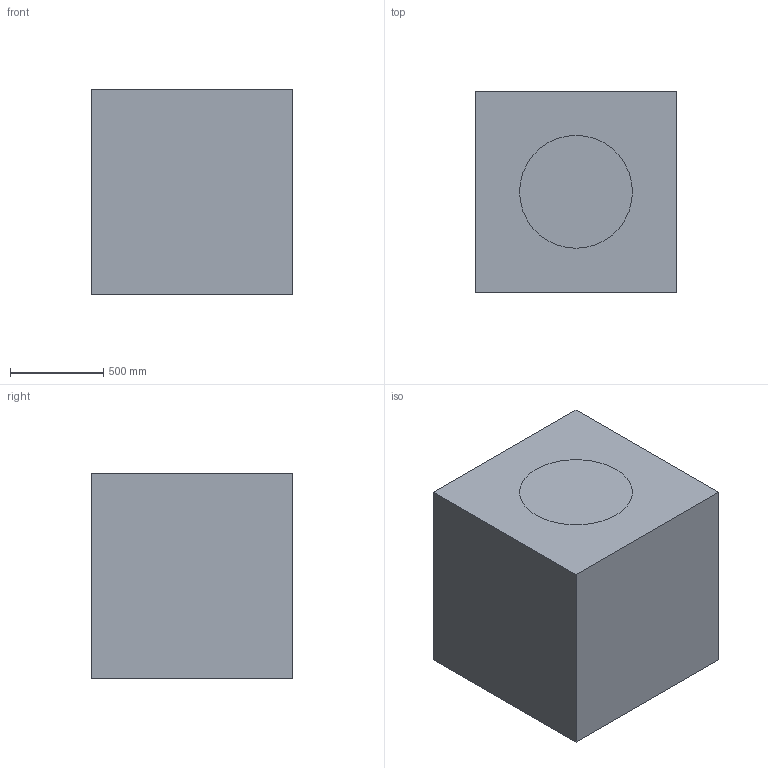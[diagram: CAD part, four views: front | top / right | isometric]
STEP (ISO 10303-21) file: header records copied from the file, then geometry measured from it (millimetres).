
FILE_DESCRIPTION(('FreeCAD Model'),'2;1');
FILE_NAME('Open CASCADE Shape Model','2026-04-01T10:32:58',('FreeCAD'),( 'FreeCAD'),'Open CASCADE STEP processor 7.8','FreeCAD','Unknown');
FILE_SCHEMA(('AUTOMOTIVE_DESIGN { 1 0 10303 214 1 1 1 1 }'));
Length unit declared in the file: millimetre
Products named in the file (1): Open CASCADE STEP translator 7.8 6
Bounding box: 1080 x 1080 x 1100 mm (x, y, z)
Surface area: 7763872.6 mm2
Topology: 2 solids, 2 shells, 9 faces, 15 edges, 10 vertices
Faces by surface type: plane 8, cylinder 1
Full cylindrical faces by diameter (mm): 604.8 x1
Entity records: 219 total; most frequent: DIRECTION 37, CARTESIAN_POINT 35, ORIENTED_EDGE 30, EDGE_CURVE 15, LINE 13, VECTOR 13, AXIS2_PLACEMENT_3D 12, VERTEX_POINT 10
